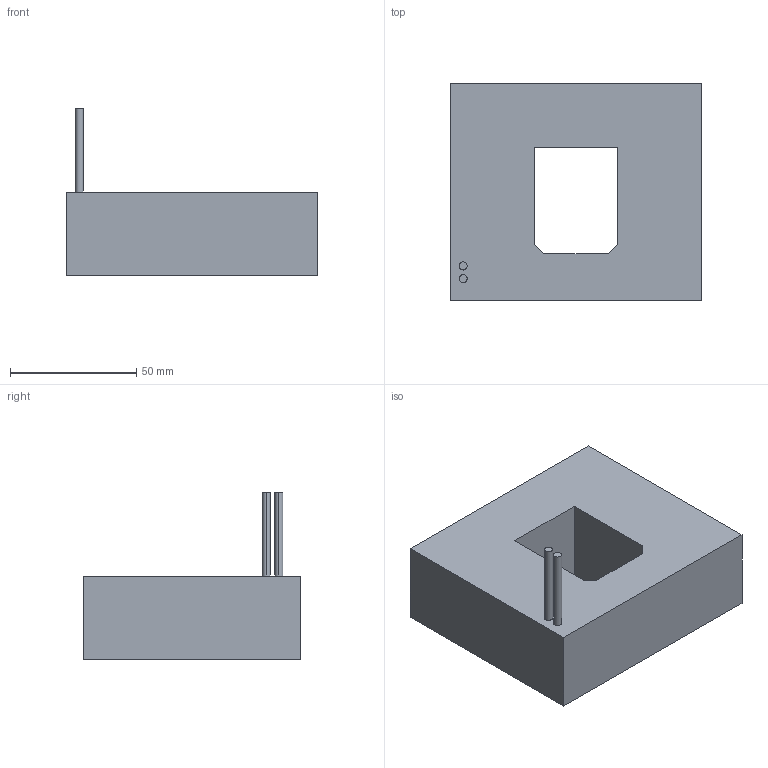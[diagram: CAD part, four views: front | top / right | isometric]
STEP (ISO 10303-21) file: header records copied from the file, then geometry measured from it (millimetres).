
FILE_DESCRIPTION (( 'STEP AP203' ), '1' );
FILE_NAME ('Model 615.STEP', '2018-06-21T13:32:01', ( '' ), ( '' ), 'SwSTEP 2.0', 'SolidWorks 2015', '' );
FILE_SCHEMA (( 'CONFIG_CONTROL_DESIGN' ));
Length unit declared in the file: inch
Products named in the file (1): Model 615
Bounding box: 99.82 x 86.36 x 66.55 mm (x, y, z)
Volume: 241165.1 mm3; surface area: 32390.4 mm2
Topology: 1 solids, 1 shells, 18 faces, 42 edges, 28 vertices
Faces by surface type: plane 14, cylinder 4
Entity records: 597 total; most frequent: CARTESIAN_POINT 89, DIRECTION 88, ORIENTED_EDGE 84, EDGE_CURVE 42, VECTOR 34, LINE 34, VERTEX_POINT 28, AXIS2_PLACEMENT_3D 27
